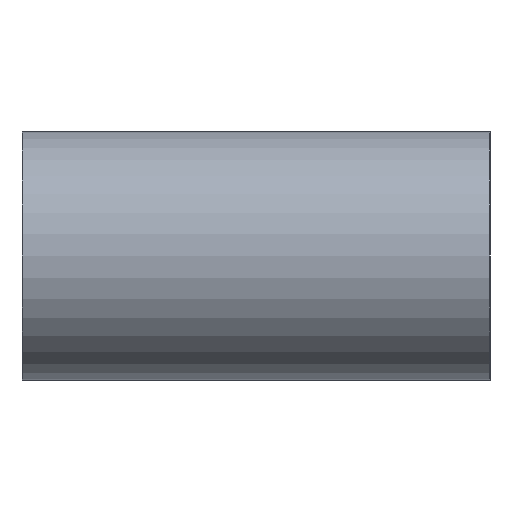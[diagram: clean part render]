
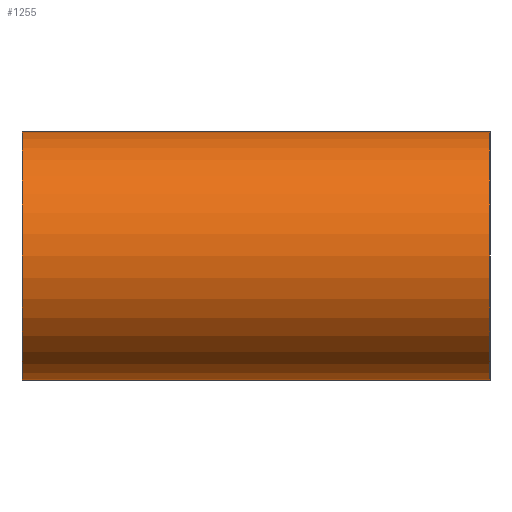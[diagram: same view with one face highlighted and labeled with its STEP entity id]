
A CAD part, left-side view. The second image highlights one B-rep face of the part: STEP entity #1255.
In plain terms, the highlighted cylindrical face has radius 16 mm (diameter 32 mm), a partial arc.
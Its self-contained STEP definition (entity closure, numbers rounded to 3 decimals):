
#392 = VERTEX_POINT('',#393);
#393 = CARTESIAN_POINT('',(-332.,-146.913,-32.));
#407 = PLANE('',#408);
#408 = AXIS2_PLACEMENT_3D('',#409,#410,#411);
#409 = CARTESIAN_POINT('',(-332.,-146.913,-32.));
#410 = DIRECTION('',(0.,0.,1.));
#411 = DIRECTION('',(1.,0.,-0.));
#490 = PLANE('',#491);
#491 = AXIS2_PLACEMENT_3D('',#492,#493,#494);
#492 = CARTESIAN_POINT('',(-332.,-146.913,0.));
#493 = DIRECTION('',(0.,0.,1.));
#494 = DIRECTION('',(1.,0.,-0.));
#653 = PLANE('',#654);
#654 = AXIS2_PLACEMENT_3D('',#655,#656,#657);
#655 = CARTESIAN_POINT('',(-332.,-146.913,-16.));
#656 = DIRECTION('',(0.,1.,0.));
#657 = DIRECTION('',(0.,-0.,1.));
#703 = PLANE('',#704);
#704 = AXIS2_PLACEMENT_3D('',#705,#706,#707);
#705 = CARTESIAN_POINT('',(-332.,-86.913,-16.));
#706 = DIRECTION('',(0.,1.,0.));
#707 = DIRECTION('',(0.,-0.,1.));
#721 = VERTEX_POINT('',#722);
#722 = CARTESIAN_POINT('',(-332.,-86.913,-32.));
#868 = EDGE_CURVE('',#392,#721,#869,.T.);
#869 = SURFACE_CURVE('',#870,(#874,#881),.PCURVE_S1.);
#870 = LINE('',#871,#872);
#871 = CARTESIAN_POINT('',(-332.,-146.913,-32.));
#872 = VECTOR('',#873,1.);
#873 = DIRECTION('',(-0.,1.,0.));
#874 = PCURVE('',#407,#875);
#875 = DEFINITIONAL_REPRESENTATION('',(#876),#880);
#876 = LINE('',#877,#878);
#877 = CARTESIAN_POINT('',(0.,0.));
#878 = VECTOR('',#879,1.);
#879 = DIRECTION('',(0.,1.));
#880 = ( GEOMETRIC_REPRESENTATION_CONTEXT(2) 
PARAMETRIC_REPRESENTATION_CONTEXT() REPRESENTATION_CONTEXT('2D SPACE',''
  ) );
#881 = PCURVE('',#882,#887);
#882 = CYLINDRICAL_SURFACE('',#883,16.);
#883 = AXIS2_PLACEMENT_3D('',#884,#885,#886);
#884 = CARTESIAN_POINT('',(-332.,-146.913,-16.));
#885 = DIRECTION('',(0.,1.,0.));
#886 = DIRECTION('',(0.,-0.,1.));
#887 = DEFINITIONAL_REPRESENTATION('',(#888),#892);
#888 = LINE('',#889,#890);
#889 = CARTESIAN_POINT('',(3.142,0.));
#890 = VECTOR('',#891,1.);
#891 = DIRECTION('',(0.,1.));
#892 = ( GEOMETRIC_REPRESENTATION_CONTEXT(2) 
PARAMETRIC_REPRESENTATION_CONTEXT() REPRESENTATION_CONTEXT('2D SPACE',''
  ) );
#932 = EDGE_CURVE('',#933,#935,#937,.T.);
#933 = VERTEX_POINT('',#934);
#934 = CARTESIAN_POINT('',(-332.,-146.913,0.));
#935 = VERTEX_POINT('',#936);
#936 = CARTESIAN_POINT('',(-332.,-86.913,0.));
#937 = SURFACE_CURVE('',#938,(#942,#949),.PCURVE_S1.);
#938 = LINE('',#939,#940);
#939 = CARTESIAN_POINT('',(-332.,-146.913,0.));
#940 = VECTOR('',#941,1.);
#941 = DIRECTION('',(-0.,1.,0.));
#942 = PCURVE('',#490,#943);
#943 = DEFINITIONAL_REPRESENTATION('',(#944),#948);
#944 = LINE('',#945,#946);
#945 = CARTESIAN_POINT('',(0.,0.));
#946 = VECTOR('',#947,1.);
#947 = DIRECTION('',(0.,1.));
#948 = ( GEOMETRIC_REPRESENTATION_CONTEXT(2) 
PARAMETRIC_REPRESENTATION_CONTEXT() REPRESENTATION_CONTEXT('2D SPACE',''
  ) );
#949 = PCURVE('',#882,#950);
#950 = DEFINITIONAL_REPRESENTATION('',(#951),#955);
#951 = LINE('',#952,#953);
#952 = CARTESIAN_POINT('',(6.283,-0.));
#953 = VECTOR('',#954,1.);
#954 = DIRECTION('',(0.,1.));
#955 = ( GEOMETRIC_REPRESENTATION_CONTEXT(2) 
PARAMETRIC_REPRESENTATION_CONTEXT() REPRESENTATION_CONTEXT('2D SPACE',''
  ) );
#1164 = EDGE_CURVE('',#392,#933,#1165,.T.);
#1165 = SURFACE_CURVE('',#1166,(#1171,#1178),.PCURVE_S1.);
#1166 = CIRCLE('',#1167,16.);
#1167 = AXIS2_PLACEMENT_3D('',#1168,#1169,#1170);
#1168 = CARTESIAN_POINT('',(-332.,-146.913,-16.));
#1169 = DIRECTION('',(0.,1.,0.));
#1170 = DIRECTION('',(0.,-0.,1.));
#1171 = PCURVE('',#653,#1172);
#1172 = DEFINITIONAL_REPRESENTATION('',(#1173),#1177);
#1173 = CIRCLE('',#1174,16.);
#1174 = AXIS2_PLACEMENT_2D('',#1175,#1176);
#1175 = CARTESIAN_POINT('',(0.,0.));
#1176 = DIRECTION('',(1.,0.));
#1177 = ( GEOMETRIC_REPRESENTATION_CONTEXT(2) 
PARAMETRIC_REPRESENTATION_CONTEXT() REPRESENTATION_CONTEXT('2D SPACE',''
  ) );
#1178 = PCURVE('',#882,#1179);
#1179 = DEFINITIONAL_REPRESENTATION('',(#1180),#1184);
#1180 = LINE('',#1181,#1182);
#1181 = CARTESIAN_POINT('',(0.,0.));
#1182 = VECTOR('',#1183,1.);
#1183 = DIRECTION('',(1.,0.));
#1184 = ( GEOMETRIC_REPRESENTATION_CONTEXT(2) 
PARAMETRIC_REPRESENTATION_CONTEXT() REPRESENTATION_CONTEXT('2D SPACE',''
  ) );
#1212 = EDGE_CURVE('',#721,#935,#1213,.T.);
#1213 = SURFACE_CURVE('',#1214,(#1219,#1226),.PCURVE_S1.);
#1214 = CIRCLE('',#1215,16.);
#1215 = AXIS2_PLACEMENT_3D('',#1216,#1217,#1218);
#1216 = CARTESIAN_POINT('',(-332.,-86.913,-16.));
#1217 = DIRECTION('',(0.,1.,0.));
#1218 = DIRECTION('',(0.,-0.,1.));
#1219 = PCURVE('',#703,#1220);
#1220 = DEFINITIONAL_REPRESENTATION('',(#1221),#1225);
#1221 = CIRCLE('',#1222,16.);
#1222 = AXIS2_PLACEMENT_2D('',#1223,#1224);
#1223 = CARTESIAN_POINT('',(0.,0.));
#1224 = DIRECTION('',(1.,0.));
#1225 = ( GEOMETRIC_REPRESENTATION_CONTEXT(2) 
PARAMETRIC_REPRESENTATION_CONTEXT() REPRESENTATION_CONTEXT('2D SPACE',''
  ) );
#1226 = PCURVE('',#882,#1227);
#1227 = DEFINITIONAL_REPRESENTATION('',(#1228),#1232);
#1228 = LINE('',#1229,#1230);
#1229 = CARTESIAN_POINT('',(0.,60.));
#1230 = VECTOR('',#1231,1.);
#1231 = DIRECTION('',(1.,0.));
#1232 = ( GEOMETRIC_REPRESENTATION_CONTEXT(2) 
PARAMETRIC_REPRESENTATION_CONTEXT() REPRESENTATION_CONTEXT('2D SPACE',''
  ) );
#1255 = ADVANCED_FACE('',(#1256),#882,.T.);
#1256 = FACE_BOUND('',#1257,.T.);
#1257 = EDGE_LOOP('',(#1258,#1259,#1260,#1261));
#1258 = ORIENTED_EDGE('',*,*,#932,.T.);
#1259 = ORIENTED_EDGE('',*,*,#1212,.F.);
#1260 = ORIENTED_EDGE('',*,*,#868,.F.);
#1261 = ORIENTED_EDGE('',*,*,#1164,.T.);
